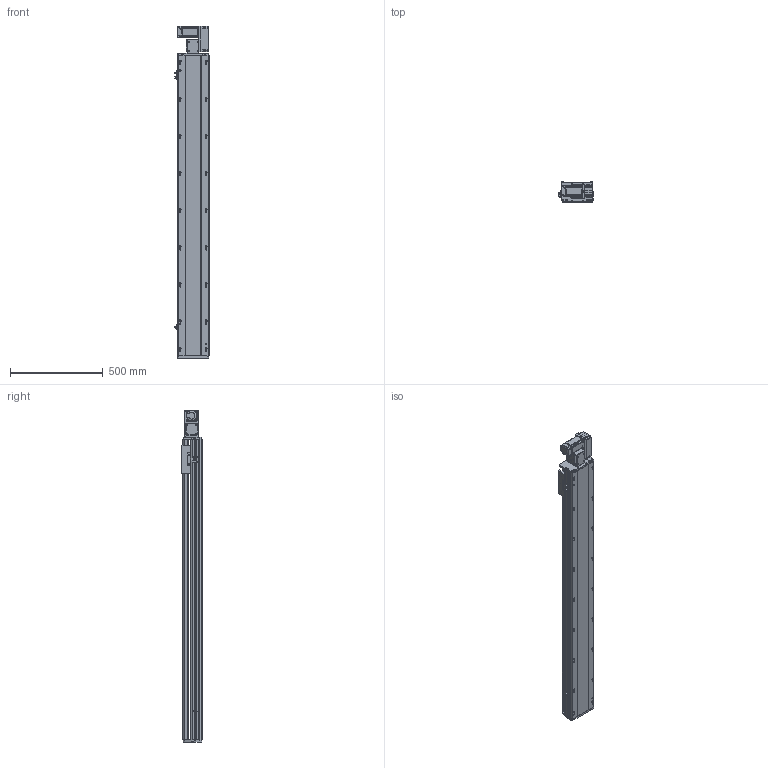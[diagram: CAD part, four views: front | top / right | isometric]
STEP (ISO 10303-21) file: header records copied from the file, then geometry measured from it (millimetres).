
FILE_DESCRIPTION (( 'STEP AP214' ), '1' );
FILE_NAME ('RTB17S-XX-1350-R-M40-C4.STEP', '2025-12-11T07:40:08', ( '' ), ( '' ), 'SwSTEP 2.0', 'SolidWorks 2018', '' );
FILE_SCHEMA (( 'AUTOMOTIVE_DESIGN' ));
Length unit declared in the file: millimetre
Products named in the file (14): RTB17S-L-004佪裝蹟譫蟀諉釱^RTB17S-XX-XX-R-M40-C4; RTB14-L-008-M20--萇儂啣^RTB17S-R-々湍釱蚾饜-400W_RTB17S-XX-XX-R-M40-C4; RTB14-L-017P^RTB17S-R-々湍釱蚾饜-400W_RTB17S-XX-XX-R-M40-C4; RTB14-L-005P--轴承塑胶压盖^RTB17S-R-皮带座装配-400W_RTB17S-XX-XX-R-M40-C4; OMRON EE-SX672 传感器^RTB17S-XX-XX-R-M40-C4; RTB17S-L-001耜醱啣^RTB17S-XX-XX-R-M40-C4; RTB17S-XX-1350-R-M40-C4; RTH13-BL-012覜茼え俋离^RTB17S-XX-XX-R-M40-C4; 400W侜督萇儂^RTB17S-XX-XX-R-M40-C4; RTB17-R-011菁釱^RTB17S-XX-XX-R-M40-C4; RTB17S-R-々湍釱蚾饜-400W^RTB17S-XX-XX-R-M40-C4; RTB17S-L-014-T20--々湍釱^RTB17S-R-々湍釱蚾饜-400W_RTB17S-XX-XX-R-M40-C4; RTB14-L-018P^RTB17S-R-々湍釱蚾饜-400W_RTB17S-XX-XX-R-M40-C4; RTB17S-L-007奻裔^RTB17S-XX-XX-R-M40-C4
Assembly tree (16 placements, depth 3):
  RTB17S-XX-1350-R-M40-C4
    RTB17-R-011菁釱^RTB17S-XX-XX-R-M40-C4
    RTB17S-L-007奻裔^RTB17S-XX-XX-R-M40-C4
    OMRON EE-SX672 传感器^RTB17S-XX-XX-R-M40-C4  x3
    RTB17S-L-001耜醱啣^RTB17S-XX-XX-R-M40-C4
    400W侜督萇儂^RTB17S-XX-XX-R-M40-C4
    RTB17S-L-004佪裝蹟譫蟀諉釱^RTB17S-XX-XX-R-M40-C4
    RTH13-BL-012覜茼え俋离^RTB17S-XX-XX-R-M40-C4
    RTB17S-R-々湍釱蚾饜-400W^RTB17S-XX-XX-R-M40-C4
      RTB17S-L-014-T20--々湍釱^RTB17S-R-々湍釱蚾饜-400W_RTB17S-XX-XX-R-M40-C4
      RTB14-L-005P--轴承塑胶压盖^RTB17S-R-皮带座装配-400W_RTB17S-XX-XX-R-M40-C4
      RTB14-L-008-M20--萇儂啣^RTB17S-R-々湍釱蚾饜-400W_RTB17S-XX-XX-R-M40-C4
      RTB14-L-017P^RTB17S-R-々湍釱蚾饜-400W_RTB17S-XX-XX-R-M40-C4  x2
      RTB14-L-018P^RTB17S-R-々湍釱蚾饜-400W_RTB17S-XX-XX-R-M40-C4
Bounding box: 183.5 x 108 x 1791 mm (x, y, z)
Volume: 15228583 mm3; surface area: 1809316.8 mm2
Topology: 15 solids, 15 shells, 2237 faces, 6195 edges, 4041 vertices
Faces by surface type: plane 1072, cylinder 717, bspline 301, cone 139, torus 8
Entity records: 64169 total; most frequent: CARTESIAN_POINT 18000, ORIENTED_EDGE 9234, DIRECTION 8576, EDGE_CURVE 4617, VERTEX_POINT 3029, AXIS2_PLACEMENT_3D 2959, LINE 2658, VECTOR 2658
